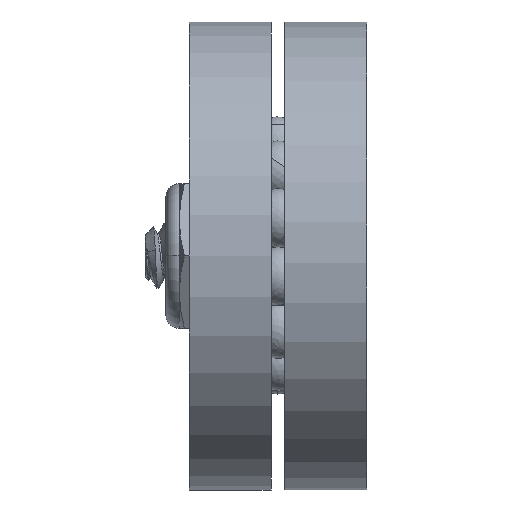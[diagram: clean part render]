
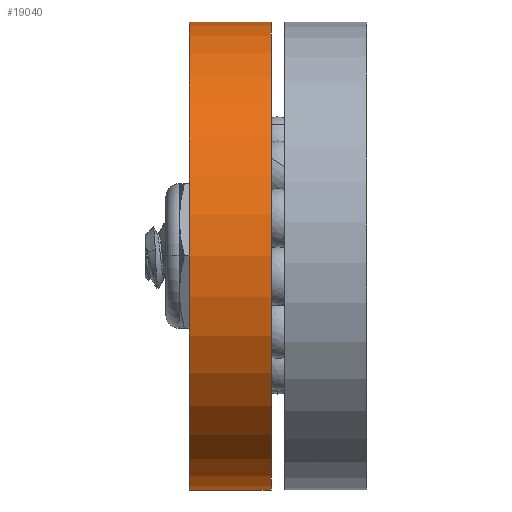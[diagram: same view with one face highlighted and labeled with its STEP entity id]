
A CAD part, left-side view. The second image highlights one B-rep face of the part: STEP entity #19040.
In plain terms, the highlighted cylindrical face has radius 12.696 mm (diameter 25.392 mm), a partial arc.
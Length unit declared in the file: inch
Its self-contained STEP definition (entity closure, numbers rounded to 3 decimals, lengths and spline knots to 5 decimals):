
#183 = LINE ( 'NONE', #24768, #665 ) ;
#665 = VECTOR ( 'NONE', #18596, 39.37008 ) ;
#1153 = ORIENTED_EDGE ( 'NONE', *, *, #3535, .F. ) ;
#2163 = CARTESIAN_POINT ( 'NONE',  ( 0., 0.175, 0. ) ) ;
#2199 = VECTOR ( 'NONE', #28244, 39.37008 ) ;
#2682 = CARTESIAN_POINT ( 'NONE',  ( 0., 0., -0.49985 ) ) ;
#3014 = CARTESIAN_POINT ( 'NONE',  ( 0., 0., 0. ) ) ;
#3096 = AXIS2_PLACEMENT_3D ( 'NONE', #31631, #7659, #14450 ) ;
#3535 = EDGE_CURVE ( 'NONE', #26675, #8869, #43813, .T. ) ;
#3906 = EDGE_CURVE ( 'NONE', #26675, #43353, #183, .T. ) ;
#4093 = CARTESIAN_POINT ( 'NONE',  ( 0., 0.175, 0.49985 ) ) ;
#5656 = DIRECTION ( 'NONE',  ( 0., 1., 0. ) ) ;
#6578 = ORIENTED_EDGE ( 'NONE', *, *, #3906, .T. ) ;
#7659 = DIRECTION ( 'NONE',  ( 0., -1., 0. ) ) ;
#8869 = VERTEX_POINT ( 'NONE', #30884 ) ;
#10100 = EDGE_CURVE ( 'NONE', #43353, #10857, #29818, .T. ) ;
#10857 = VERTEX_POINT ( 'NONE', #14398 ) ;
#12286 = AXIS2_PLACEMENT_3D ( 'NONE', #2163, #5656, #29775 ) ;
#12348 = EDGE_CURVE ( 'NONE', #8869, #10857, #29726, .T. ) ;
#12728 = CYLINDRICAL_SURFACE ( 'NONE', #3096, 0.49985 ) ;
#14398 = CARTESIAN_POINT ( 'NONE',  ( 0., 0., 0.49985 ) ) ;
#14450 = DIRECTION ( 'NONE',  ( 0., 0., -1. ) ) ;
#18596 = DIRECTION ( 'NONE',  ( 0., -1., 0. ) ) ;
#19040 = ADVANCED_FACE ( 'NONE', ( #36944 ), #12728, .T. ) ;
#24768 = CARTESIAN_POINT ( 'NONE',  ( 0., 0.175, -0.49985 ) ) ;
#25964 = ORIENTED_EDGE ( 'NONE', *, *, #12348, .F. ) ;
#26675 = VERTEX_POINT ( 'NONE', #32604 ) ;
#28244 = DIRECTION ( 'NONE',  ( 0., -1., 0. ) ) ;
#28979 = ORIENTED_EDGE ( 'NONE', *, *, #10100, .T. ) ;
#29726 = LINE ( 'NONE', #4093, #2199 ) ;
#29775 = DIRECTION ( 'NONE',  ( 0., 0., 1. ) ) ;
#29818 = CIRCLE ( 'NONE', #35659, 0.49985 ) ;
#30340 = DIRECTION ( 'NONE',  ( 0., 1., 0. ) ) ;
#30884 = CARTESIAN_POINT ( 'NONE',  ( 0., 0.175, 0.49985 ) ) ;
#31631 = CARTESIAN_POINT ( 'NONE',  ( 0., 0.175, 0. ) ) ;
#32022 = EDGE_LOOP ( 'NONE', ( #25964, #1153, #6578, #28979 ) ) ;
#32604 = CARTESIAN_POINT ( 'NONE',  ( 0., 0.175, -0.49985 ) ) ;
#33785 = DIRECTION ( 'NONE',  ( 0., 0., 1. ) ) ;
#35659 = AXIS2_PLACEMENT_3D ( 'NONE', #3014, #30340, #33785 ) ;
#36944 = FACE_OUTER_BOUND ( 'NONE', #32022, .T. ) ;
#43353 = VERTEX_POINT ( 'NONE', #2682 ) ;
#43813 = CIRCLE ( 'NONE', #12286, 0.49985 ) ;
